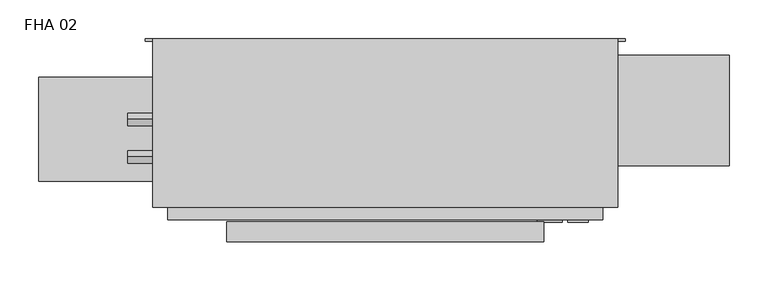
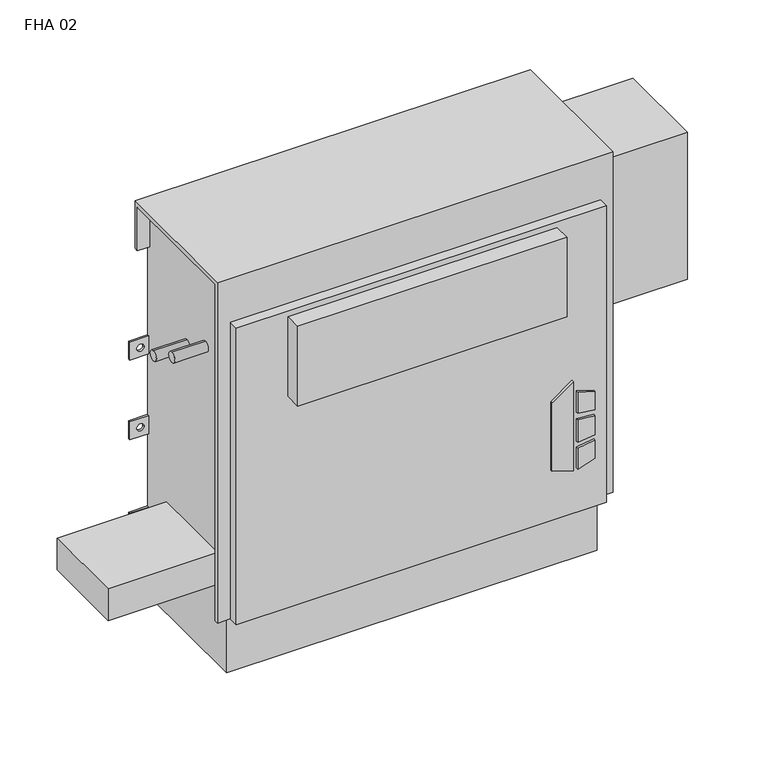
"""IFC4 building model written with IfcOpenShell, lengths in millimetres: proxy geometry, Vertical_Fan_Coil_Unit_-_FHA_-_IEC_-_2-Pipe_FS-FR_LH_2022 : FHA 02."""

from ifc_helpers import new_model, si_unit, point, frame, frame_2d, origin, place, context, project, spatial, polyline, circle_curve, trimmed, segment, composite_curve, outline, extrude, source, transform, mapped, element, save
from ifc_brep_helpers import plane_surface, revolved_surface, advanced_brep


def fha_02_6b9d32cf(model_context):
    return source(origin(), model_context, "Body", "SolidModel", [
        extrude(outline(polyline([(172.5771459, 347.7368862), (162.6290756, 379.9102728), (304.8, 379.9102728), (281.7779939, 347.7368862), (172.5771459, 347.7368862)])), frame((0.0, 9.525, 0.0), z_axis=(0.0, 1.0, 0.0), x_axis=(0.0, 0.0, 1.0)), (0.0, 0.0, 1.0), 3.175),
        extrude(outline(polyline([(251.5764313, 386.6686058), (248.3740387, 412.75), (277.6028798, 412.75), (285.6672948, 386.6686058), (251.5764313, 386.6686058)])), frame((0.0, 9.525, 0.0), z_axis=(0.0, 1.0, 0.0), x_axis=(0.0, 0.0, 1.0)), (0.0, 0.0, 1.0), 3.175),
        extrude(outline(polyline([(199.7129044, 412.75), (196.0474034, 386.6686058), (162.6290756, 386.6686058), (171.2633128, 412.75), (199.7129044, 412.75)])), frame((0.0, 9.525, 0.0), z_axis=(0.0, 1.0, 0.0), x_axis=(0.0, 0.0, 1.0)), (0.0, 0.0, 1.0), 3.175),
        extrude(outline(polyline([(239.0280658, 412.75), (241.3098921, 386.6686058), (205.3723436, 386.6686058), (208.1136086, 412.75), (239.0280658, 412.75)])), frame((0.0, 9.525, 0.0), z_axis=(0.0, 1.0, 0.0), x_axis=(0.0, 0.0, 1.0)), (0.0, 0.0, 1.0), 3.175),
        extrude(outline(composite_curve([segment(trimmed(circle_curve(frame_2d((-190.5, 128.5875)), 9.525), [point((-200.025, 128.5875))], [point((-180.975, 128.5875))], False, "CARTESIAN"), True, "CONTINUOUS"), segment(trimmed(circle_curve(frame_2d((-190.5, 128.5875)), 9.525), [point((-180.975, 128.5875))], [point((-200.025, 128.5875))], False, "CARTESIAN"), True, "CONTINUOUS")], self_intersect=False)), frame((0.0, 0.0, 101.6), z_axis=(0.0, 0.0, 1.0), x_axis=(1.0, 0.0, 0.0)), (0.0, 0.0, 1.0), 25.4),
        extrude(outline(polyline([(-292.1, 61.9125), (-292.1, 195.2625), (-127.0, 195.2625), (-127.0, 61.9125), (-292.1, 61.9125)])), frame((0.0, 0.0, 127.0), z_axis=(0.0, 0.0, 1.0), x_axis=(1.0, 0.0, 0.0)), (0.0, 0.0, 1.0), 50.8),
        extrude(outline(polyline([(355.6, -15.875), (-50.8, -15.875), (-50.8, 9.525), (355.6, 9.525), (355.6, -15.875)])), frame((0.0, 0.0, 431.8), z_axis=(0.0, 0.0, 1.0), x_axis=(1.0, 0.0, 0.0)), (0.0, 0.0, 1.0), 127.0),
        extrude(outline(composite_curve([segment(trimmed(circle_curve(frame_2d((93.1926, 488.0102)), 7.9375), [point((93.1926, 495.9477))], [point((93.1926, 480.0727))], False, "CARTESIAN"), True, "CONTINUOUS"), segment(trimmed(circle_curve(frame_2d((93.1926, 488.0102)), 7.9375), [point((93.1926, 480.0727))], [point((93.1926, 495.9477))], False, "CARTESIAN"), True, "CONTINUOUS")], self_intersect=False)), frame((-177.8, 0.0, 0.0), z_axis=(1.0, 0.0, 0.0), x_axis=(0.0, 1.0, 0.0)), (0.0, 0.0, 1.0), 50.8),
        extrude(outline(composite_curve([segment(trimmed(circle_curve(frame_2d((141.3002, 461.3402)), 7.9375), [point((141.3002, 469.2777))], [point((141.3002, 453.4027))], False, "CARTESIAN"), True, "CONTINUOUS"), segment(trimmed(circle_curve(frame_2d((141.3002, 461.3402)), 7.9375), [point((141.3002, 453.4027))], [point((141.3002, 469.2777))], False, "CARTESIAN"), True, "CONTINUOUS")], self_intersect=False)), frame((-177.8, 0.0, 0.0), z_axis=(1.0, 0.0, 0.0), x_axis=(0.0, 1.0, 0.0)), (0.0, 0.0, 1.0), 50.8),
        extrude(outline(polyline([(593.725, 223.266), (593.725, 81.534), (431.8, 81.534), (431.8, 223.266), (593.725, 223.266)])), frame((0.0, 0.0, 349.25), z_axis=(0.0, 0.0, 1.0), x_axis=(1.0, 0.0, 0.0)), (0.0, 0.0, 1.0), 234.95),
        advanced_brep(
        [(450.85, 244.475, 635.0), (-146.05, 244.475, 635.0), (-146.05, 28.575, 635.0), (450.85, 28.575, 635.0), (-127.0, 244.475, 0.0), (431.8, 244.475, 0.0), (431.8, 38.1, 0.0), (-127.0, 38.1, 0.0), (450.85, 244.475, 558.8), (431.8, 244.475, 558.8), (431.8, 244.475, 414.3375), (460.375, 244.475, 414.3375), (460.375, 244.475, 385.7625), (431.8, 244.475, 385.7625), (431.8, 244.475, 287.3375), (460.375, 244.475, 287.3375), (460.375, 244.475, 258.7625), (431.8, 244.475, 258.7625), (431.8, 244.475, 141.2875), (460.375, 244.475, 141.2875), (460.375, 244.475, 112.7125), (431.8, 244.475, 112.7125), (-127.0, 244.475, 112.7125), (-155.575, 244.475, 112.7125), (-155.575, 244.475, 141.2875), (-127.0, 244.475, 141.2875), (-127.0, 244.475, 258.7625), (-155.575, 244.475, 258.7625), (-155.575, 244.475, 287.3375), (-127.0, 244.475, 287.3375), (-127.0, 244.475, 385.7625), (-155.575, 244.475, 385.7625), (-155.575, 244.475, 414.3375), (-127.0, 244.475, 414.3375), (-127.0, 244.475, 558.8), (-146.05, 244.475, 558.8), (450.0626, 244.475, 127.0), (438.9374, 244.475, 127.0), (-134.1374, 244.475, 127.0), (-145.2626, 244.475, 127.0), (450.0626, 244.475, 273.05), (438.9374, 244.475, 273.05), (-134.1374, 244.475, 273.05), (-145.2626, 244.475, 273.05), (450.0626, 244.475, 400.05), (438.9374, 244.475, 400.05), (-134.1374, 244.475, 400.05), (-145.2626, 244.475, 400.05), (-146.05, 238.125, 558.8), (-146.05, 238.125, 628.65), (-146.05, 34.925, 628.65), (-146.05, 34.925, 92.075), (-146.05, 28.575, 92.075), (431.8, 12.7, 565.15), (-127.0, 12.7, 565.15), (-127.0, 12.7, 92.075), (431.8, 12.7, 92.075), (450.85, 28.575, 92.075), (450.85, 34.925, 92.075), (450.85, 34.925, 628.65), (450.85, 238.125, 628.65), (450.85, 238.125, 558.8), (-127.0, 28.575, 92.075), (-127.0, 28.575, 565.15), (431.8, 28.575, 565.15), (431.8, 28.575, 92.075), (-127.0, 34.925, 92.075), (-127.0, 38.1, 92.075), (431.8, 38.1, 92.075), (431.8, 34.925, 92.075), (431.8, 241.3, 112.7125), (431.8, 241.3, 141.2875), (431.8, 241.3, 258.7625), (431.8, 241.3, 287.3375), (431.8, 241.3, 385.7625), (431.8, 241.3, 414.3375), (431.8, 238.125, 558.8), (431.8, 238.125, 628.65), (431.8, 34.925, 628.65), (-127.0, 34.925, 628.65), (-127.0, 238.125, 628.65), (-127.0, 238.125, 558.8), (-127.0, 241.3, 414.3375), (-127.0, 241.3, 385.7625), (-127.0, 241.3, 287.3375), (-127.0, 241.3, 258.7625), (-127.0, 241.3, 141.2875), (-127.0, 241.3, 112.7125), (460.375, 241.3, 112.7125), (460.375, 241.3, 141.2875), (438.9374, 241.3, 127.0), (450.0626, 241.3, 127.0), (460.375, 241.3, 258.7625), (460.375, 241.3, 287.3375), (438.9374, 241.3, 273.05), (450.0626, 241.3, 273.05), (460.375, 241.3, 385.7625), (460.375, 241.3, 414.3375), (438.9374, 241.3, 400.05), (450.0626, 241.3, 400.05), (-155.575, 241.3, 141.2875), (-155.575, 241.3, 112.7125), (-145.2626, 241.3, 127.0), (-134.1374, 241.3, 127.0), (-155.575, 241.3, 287.3375), (-155.575, 241.3, 258.7625), (-145.2626, 241.3, 273.05), (-134.1374, 241.3, 273.05), (-155.575, 241.3, 414.3375), (-155.575, 241.3, 385.7625), (-145.2626, 241.3, 400.05), (-134.1374, 241.3, 400.05)],
        [
            (0, 1),
            (1, 2),
            (2, 3),
            (3, 0),
            (4, 5),
            (5, 6),
            (6, 7),
            (7, 4),
            (0, 8),
            (8, 9),
            (9, 10),
            (10, 11),
            (11, 12),
            (12, 13),
            (13, 14),
            (14, 15),
            (15, 16),
            (16, 17),
            (17, 18),
            (18, 19),
            (19, 20),
            (20, 21),
            (21, 5),
            (4, 22),
            (22, 23),
            (23, 24),
            (24, 25),
            (25, 26),
            (26, 27),
            (27, 28),
            (28, 29),
            (29, 30),
            (30, 31),
            (31, 32),
            (32, 33),
            (33, 34),
            (34, 35),
            (35, 1),
            (36, 37, circle_curve(frame((444.5, 244.475, 127.0), z_axis=(0.0, -1.0, 0.0), x_axis=(-1.0, 0.0, 0.0)), 5.5626)),
            (37, 36, circle_curve(frame((444.5, 244.475, 127.0), z_axis=(0.0, -1.0, 0.0), x_axis=(-1.0, 0.0, 0.0)), 5.5626)),
            (38, 39, circle_curve(frame((-139.7, 244.475, 127.0), z_axis=(0.0, -1.0, 0.0), x_axis=(-1.0, 0.0, 0.0)), 5.5626)),
            (39, 38, circle_curve(frame((-139.7, 244.475, 127.0), z_axis=(0.0, -1.0, 0.0), x_axis=(-1.0, 0.0, 0.0)), 5.5626)),
            (40, 41, circle_curve(frame((444.5, 244.475, 273.05), z_axis=(0.0, -1.0, 0.0), x_axis=(-1.0, 0.0, 0.0)), 5.5626)),
            (41, 40, circle_curve(frame((444.5, 244.475, 273.05), z_axis=(0.0, -1.0, 0.0), x_axis=(-1.0, 0.0, 0.0)), 5.5626)),
            (42, 43, circle_curve(frame((-139.7, 244.475, 273.05), z_axis=(0.0, -1.0, 0.0), x_axis=(-1.0, 0.0, 0.0)), 5.5626)),
            (43, 42, circle_curve(frame((-139.7, 244.475, 273.05), z_axis=(0.0, -1.0, 0.0), x_axis=(-1.0, 0.0, 0.0)), 5.5626)),
            (44, 45, circle_curve(frame((444.5, 244.475, 400.05), z_axis=(0.0, -1.0, 0.0), x_axis=(-1.0, 0.0, 0.0)), 5.5626)),
            (45, 44, circle_curve(frame((444.5, 244.475, 400.05), z_axis=(0.0, -1.0, 0.0), x_axis=(-1.0, 0.0, 0.0)), 5.5626)),
            (46, 47, circle_curve(frame((-139.7, 244.475, 400.05), z_axis=(0.0, -1.0, 0.0), x_axis=(-1.0, 0.0, 0.0)), 5.5626)),
            (47, 46, circle_curve(frame((-139.7, 244.475, 400.05), z_axis=(0.0, -1.0, 0.0), x_axis=(-1.0, 0.0, 0.0)), 5.5626)),
            (35, 48),
            (48, 49),
            (49, 50),
            (50, 51),
            (51, 52),
            (52, 2),
            (53, 54),
            (54, 55),
            (55, 56),
            (56, 53),
            (3, 57),
            (57, 58),
            (58, 59),
            (59, 60),
            (60, 61),
            (61, 8),
            (52, 62),
            (62, 63),
            (63, 64),
            (64, 65),
            (65, 57),
            (53, 64),
            (63, 54),
            (55, 62),
            (51, 66),
            (66, 67),
            (67, 68),
            (68, 69),
            (69, 58),
            (65, 56),
            (6, 68),
            (67, 7),
            (21, 70),
            (70, 71),
            (71, 18),
            (17, 72),
            (72, 73),
            (73, 14),
            (13, 74),
            (74, 75),
            (75, 10),
            (9, 76),
            (76, 77),
            (77, 78),
            (78, 69),
            (66, 79),
            (79, 80),
            (80, 81),
            (81, 34),
            (33, 82),
            (82, 83),
            (83, 30),
            (29, 84),
            (84, 85),
            (85, 26),
            (25, 86),
            (86, 87),
            (87, 22),
            (76, 61),
            (60, 77),
            (78, 59),
            (50, 79),
            (81, 48),
            (80, 49),
            (70, 88),
            (88, 89),
            (89, 71),
            (90, 91, circle_curve(frame((444.5, 241.3, 127.0), z_axis=(0.0, 1.0, 0.0), x_axis=(-1.0, 0.0, 0.0)), 5.5626)),
            (91, 90, circle_curve(frame((444.5, 241.3, 127.0), z_axis=(0.0, 1.0, 0.0), x_axis=(-1.0, 0.0, 0.0)), 5.5626)),
            (92, 93),
            (93, 73),
            (72, 92),
            (94, 95, circle_curve(frame((444.5, 241.3, 273.05), z_axis=(0.0, 1.0, 0.0), x_axis=(-1.0, 0.0, 0.0)), 5.5626)),
            (95, 94, circle_curve(frame((444.5, 241.3, 273.05), z_axis=(0.0, 1.0, 0.0), x_axis=(-1.0, 0.0, 0.0)), 5.5626)),
            (96, 97),
            (97, 75),
            (74, 96),
            (98, 99, circle_curve(frame((444.5, 241.3, 400.05), z_axis=(0.0, 1.0, 0.0), x_axis=(-1.0, 0.0, 0.0)), 5.5626)),
            (99, 98, circle_curve(frame((444.5, 241.3, 400.05), z_axis=(0.0, 1.0, 0.0), x_axis=(-1.0, 0.0, 0.0)), 5.5626)),
            (100, 101),
            (101, 87),
            (86, 100),
            (102, 103, circle_curve(frame((-139.7, 241.3, 127.0), z_axis=(0.0, 1.0, 0.0), x_axis=(-1.0, 0.0, 0.0)), 5.5626)),
            (103, 102, circle_curve(frame((-139.7, 241.3, 127.0), z_axis=(0.0, 1.0, 0.0), x_axis=(-1.0, 0.0, 0.0)), 5.5626)),
            (84, 104),
            (104, 105),
            (105, 85),
            (106, 107, circle_curve(frame((-139.7, 241.3, 273.05), z_axis=(0.0, 1.0, 0.0), x_axis=(-1.0, 0.0, 0.0)), 5.5626)),
            (107, 106, circle_curve(frame((-139.7, 241.3, 273.05), z_axis=(0.0, 1.0, 0.0), x_axis=(-1.0, 0.0, 0.0)), 5.5626)),
            (108, 109),
            (109, 83),
            (82, 108),
            (110, 111, circle_curve(frame((-139.7, 241.3, 400.05), z_axis=(0.0, 1.0, 0.0), x_axis=(-1.0, 0.0, 0.0)), 5.5626)),
            (111, 110, circle_curve(frame((-139.7, 241.3, 400.05), z_axis=(0.0, 1.0, 0.0), x_axis=(-1.0, 0.0, 0.0)), 5.5626)),
            (89, 19),
            (88, 20),
            (16, 92),
            (93, 15),
            (12, 96),
            (97, 11),
            (24, 100),
            (101, 23),
            (105, 27),
            (104, 28),
            (32, 108),
            (109, 31),
            (90, 37),
            (36, 91),
            (102, 39),
            (38, 103),
            (94, 41),
            (40, 95),
            (106, 43),
            (42, 107),
            (98, 45),
            (44, 99),
            (110, 47),
            (46, 111),
        ],
        [
            plane_surface(frame((-146.05, 244.475, 635.0), z_axis=(0.0, 0.0, 1.0), x_axis=(-1.0, 0.0, 0.0))),
            plane_surface(frame((-146.05, 244.475, 0.0), z_axis=(0.0, 0.0, -1.0), x_axis=(1.0, 0.0, 0.0))),
            plane_surface(frame((450.85, 244.475, 635.0), z_axis=(0.0, 1.0, 0.0), x_axis=(0.0, 0.0, -1.0))),
            plane_surface(frame((-146.05, 244.475, 635.0), z_axis=(-1.0, 0.0, 0.0), x_axis=(0.0, 0.0, -1.0))),
            plane_surface(frame((-146.05, 12.7, 635.0), z_axis=(0.0, -1.0, 0.0), x_axis=(0.0, 0.0, -1.0))),
            plane_surface(frame((450.85, 12.7, 635.0), z_axis=(1.0, 0.0, 0.0), x_axis=(0.0, 0.0, -1.0))),
            plane_surface(frame((-146.05, 28.575, 635.0), z_axis=(0.0, -1.0, 0.0), x_axis=(1.0, 0.0, 0.0))),
            plane_surface(frame((-146.05, 28.575, 565.15), z_axis=(0.0, 0.0, 1.0), x_axis=(1.0, 0.0, 0.0))),
            plane_surface(frame((-146.05, 12.7, 92.075), z_axis=(0.0, 0.0, -1.0), x_axis=(1.0, 0.0, 0.0))),
            plane_surface(frame((-146.05, 38.1, 92.075), z_axis=(0.0, -1.0, 0.0), x_axis=(1.0, 0.0, 0.0))),
            plane_surface(frame((431.8, 28.575, 92.075), z_axis=(1.0, 0.0, 0.0), x_axis=(0.0, -1.0, 0.0))),
            plane_surface(frame((-127.0, 28.575, 565.15), z_axis=(-1.0, 0.0, 0.0), x_axis=(0.0, -1.0, 0.0))),
            plane_surface(frame((431.8, 244.475, 0.0), z_axis=(1.0, 0.0, 0.0), x_axis=(0.0, -1.0, 0.0))),
            plane_surface(frame((-127.0, 244.475, 92.075), z_axis=(-1.0, 0.0, 0.0), x_axis=(0.0, -1.0, 0.0))),
            plane_surface(frame((431.8, 238.125, 628.65), z_axis=(0.0, -1.0, 0.0), x_axis=(1.0, 0.0, 0.0))),
            plane_surface(frame((431.8, 238.125, 558.8), z_axis=(0.0, 0.0, -1.0), x_axis=(1.0, 0.0, 0.0))),
            plane_surface(frame((431.8, 34.925, 92.075), z_axis=(0.0, 1.0, 0.0), x_axis=(1.0, 0.0, 0.0))),
            plane_surface(frame((431.8, 34.925, 628.65), z_axis=(0.0, 0.0, -1.0), x_axis=(1.0, 0.0, 0.0))),
            plane_surface(frame((-127.0, 34.925, 628.65), z_axis=(0.0, 1.0, 0.0), x_axis=(-1.0, 0.0, 0.0))),
            plane_surface(frame((-127.0, 244.475, 558.8), z_axis=(0.0, 0.0, -1.0), x_axis=(-1.0, 0.0, 0.0))),
            plane_surface(frame((-127.0, 238.125, 558.8), z_axis=(0.0, -1.0, 0.0), x_axis=(-1.0, 0.0, 0.0))),
            plane_surface(frame((-127.0, 238.125, 628.65), z_axis=(0.0, 0.0, -1.0), x_axis=(-1.0, 0.0, 0.0))),
            plane_surface(frame((460.375, 241.3, 141.2875), z_axis=(0.0, -1.0, 0.0), x_axis=(-1.0, 0.0, 0.0))),
            plane_surface(frame((431.8, 244.475, 141.2875), z_axis=(0.0, 0.0, 1.0), x_axis=(0.0, -1.0, 0.0))),
            plane_surface(frame((460.375, 244.475, 141.2875), z_axis=(1.0, 0.0, 0.0), x_axis=(0.0, -1.0, 0.0))),
            plane_surface(frame((460.375, 244.475, 112.7125), z_axis=(0.0, 0.0, -1.0), x_axis=(0.0, -1.0, 0.0))),
            plane_surface(frame((460.375, 244.475, 258.7625), z_axis=(0.0, 0.0, -1.0), x_axis=(0.0, -1.0, 0.0))),
            plane_surface(frame((431.8, 244.475, 287.3375), z_axis=(0.0, 0.0, 1.0), x_axis=(0.0, -1.0, 0.0))),
            plane_surface(frame((460.375, 244.475, 287.3375), z_axis=(1.0, 0.0, 0.0), x_axis=(0.0, -1.0, 0.0))),
            plane_surface(frame((460.375, 244.475, 385.7625), z_axis=(0.0, 0.0, -1.0), x_axis=(0.0, -1.0, 0.0))),
            plane_surface(frame((431.8, 244.475, 414.3375), z_axis=(0.0, 0.0, 1.0), x_axis=(0.0, -1.0, 0.0))),
            plane_surface(frame((460.375, 244.475, 414.3375), z_axis=(1.0, 0.0, 0.0), x_axis=(0.0, -1.0, 0.0))),
            plane_surface(frame((-155.575, 244.475, 141.2875), z_axis=(0.0, 0.0, 1.0), x_axis=(0.0, -1.0, 0.0))),
            plane_surface(frame((-127.0, 244.475, 112.7125), z_axis=(0.0, 0.0, -1.0), x_axis=(0.0, -1.0, 0.0))),
            plane_surface(frame((-155.575, 244.475, 112.7125), z_axis=(-1.0, 0.0, 0.0), x_axis=(0.0, -1.0, 0.0))),
            plane_surface(frame((-127.0, 244.475, 258.7625), z_axis=(0.0, 0.0, -1.0), x_axis=(0.0, -1.0, 0.0))),
            plane_surface(frame((-155.575, 244.475, 258.7625), z_axis=(-1.0, 0.0, 0.0), x_axis=(0.0, -1.0, 0.0))),
            plane_surface(frame((-155.575, 244.475, 287.3375), z_axis=(0.0, 0.0, 1.0), x_axis=(0.0, -1.0, 0.0))),
            plane_surface(frame((-155.575, 244.475, 414.3375), z_axis=(0.0, 0.0, 1.0), x_axis=(0.0, -1.0, 0.0))),
            plane_surface(frame((-127.0, 244.475, 385.7625), z_axis=(0.0, 0.0, -1.0), x_axis=(0.0, -1.0, 0.0))),
            plane_surface(frame((-155.575, 244.475, 385.7625), z_axis=(-1.0, 0.0, 0.0), x_axis=(0.0, -1.0, 0.0))),
            revolved_surface(polyline([(438.9374, 241.3, 127.0), (438.9374, 244.475, 127.0)]), (444.5, 244.475, 127.0), (0.0, -1.0, 0.0)),
            revolved_surface(polyline([(-145.2626, 241.3, 127.0), (-145.2626, 244.475, 127.0)]), (-139.7, 244.475, 127.0), (0.0, -1.0, 0.0)),
            revolved_surface(polyline([(438.9374, 241.3, 273.05), (438.9374, 244.475, 273.05)]), (444.5, 244.475, 273.05), (0.0, -1.0, 0.0)),
            revolved_surface(polyline([(-145.2626, 241.3, 273.05), (-145.2626, 244.475, 273.05)]), (-139.7, 244.475, 273.05), (0.0, -1.0, 0.0)),
            revolved_surface(polyline([(438.9374, 241.3, 400.05), (438.9374, 244.475, 400.05)]), (444.5, 244.475, 400.05), (0.0, -1.0, 0.0)),
            revolved_surface(polyline([(-145.2626, 241.3, 400.05), (-145.2626, 244.475, 400.05)]), (-139.7, 244.475, 400.05), (0.0, -1.0, 0.0)),
        ],
        [
            (0, [[1, 2, 3, 4]]),
            (1, [[5, 6, 7, 8]]),
            (2, [[-1, 9, 10, 11, 12, 13, 14, 15, 16, 17, 18, 19, 20, 21, 22, 23, -5, 24, 25, 26, 27, 28, 29, 30, 31, 32, 33, 34, 35, 36, 37, 38], [39, 40], [41, 42], [43, 44], [45, 46], [47, 48], [49, 50]]),
            (3, [[-2, -38, 51, 52, 53, 54, 55, 56]]),
            (4, [[57, 58, 59, 60]]),
            (5, [[-4, 61, 62, 63, 64, 65, 66, -9]]),
            (6, [[-3, -56, 67, 68, 69, 70, 71, -61]]),
            (7, [[-57, 72, -69, 73]]),
            (8, [[-59, 74, -67, -55, 75, 76, 77, 78, 79, -62, -71, 80]]),
            (9, [[-7, 81, -77, 82]]),
            (10, [[-70, -72, -60, -80]]),
            (11, [[-68, -74, -58, -73]]),
            (12, [[-6, -23, 83, 84, 85, -19, 86, 87, 88, -15, 89, 90, 91, -11, 92, 93, 94, 95, -78, -81]]),
            (13, [[-8, -82, -76, 96, 97, 98, 99, -36, 100, 101, 102, -32, 103, 104, 105, -28, 106, 107, 108, -24]]),
            (14, [[-93, 109, -65, 110]]),
            (15, [[-92, -10, -66, -109]]),
            (16, [[-95, 111, -63, -79]]),
            (17, [[-94, -110, -64, -111]]),
            (18, [[-96, -75, -54, 112]]),
            (19, [[-99, 113, -51, -37]]),
            (20, [[-98, 114, -52, -113]]),
            (21, [[-97, -112, -53, -114]]),
            (22, [[115, 116, 117, -84], [118, 119]]),
            (22, [[120, 121, -87, 122], [123, 124]]),
            (22, [[125, 126, -90, 127], [128, 129]]),
            (22, [[130, 131, -107, 132], [133, 134]]),
            (22, [[135, 136, 137, -104], [138, 139]]),
            (22, [[140, 141, -101, 142], [143, 144]]),
            (23, [[-117, 145, -20, -85]]),
            (24, [[-116, 146, -21, -145]]),
            (25, [[-115, -83, -22, -146]]),
            (26, [[-122, -86, -18, 147]]),
            (27, [[-121, 148, -16, -88]]),
            (28, [[-120, -147, -17, -148]]),
            (29, [[-127, -89, -14, 149]]),
            (30, [[-126, 150, -12, -91]]),
            (31, [[-125, -149, -13, -150]]),
            (32, [[-132, -106, -27, 151]]),
            (33, [[-131, 152, -25, -108]]),
            (34, [[-130, -151, -26, -152]]),
            (35, [[-137, 153, -29, -105]]),
            (36, [[-136, 154, -30, -153]]),
            (37, [[-135, -103, -31, -154]]),
            (38, [[-142, -100, -35, 155]]),
            (39, [[-141, 156, -33, -102]]),
            (40, [[-140, -155, -34, -156]]),
            (41, [[157, -39, 158, -118]]),
            (41, [[-157, -119, -158, -40]]),
            (42, [[159, -41, 160, -133]]),
            (42, [[-159, -134, -160, -42]]),
            (43, [[161, -43, 162, -123]]),
            (43, [[-161, -124, -162, -44]]),
            (44, [[163, -45, 164, -138]]),
            (44, [[-163, -139, -164, -46]]),
            (45, [[165, -47, 166, -128]]),
            (45, [[-165, -129, -166, -48]]),
            (46, [[167, -49, 168, -143]]),
            (46, [[-167, -144, -168, -50]]),
        ],
    ),
    ])


if __name__ == "__main__":
    model = new_model("IFC4")
    model_context = context("Model", 3, world=origin())
    ifc_project = project(units=[si_unit("LENGTHUNIT", "METRE", prefix="MILLI")], contexts=[model_context])
    site = spatial("IfcSite", under=ifc_project)
    building = spatial("IfcBuilding", under=site)
    placement = place(None, origin())
    fha_02_shape = fha_02_6b9d32cf(model_context)
    element("IfcBuildingElementProxy", 1, Name="Vertical_Fan_Coil_Unit_-_FHA_-_IEC_-_2-Pipe_FS-FR_LH_2022 : FHA 02", ObjectType="Vertical_Fan_Coil_Unit_-_FHA_-_IEC_-_2-Pipe_FS-FR_LH_2022 : FHA 02", at=placement, inside=building, context=model_context, shape_type="MappedRepresentation", body=[
        mapped(fha_02_shape, transform((0.0, 0.0, 0.0), x_axis=(1.0, 0.0, 0.0), y_axis=(0.0, 1.0, 0.0), z_axis=(0.0, 0.0, 1.0))),
    ])
    save(model, "model.ifc")
